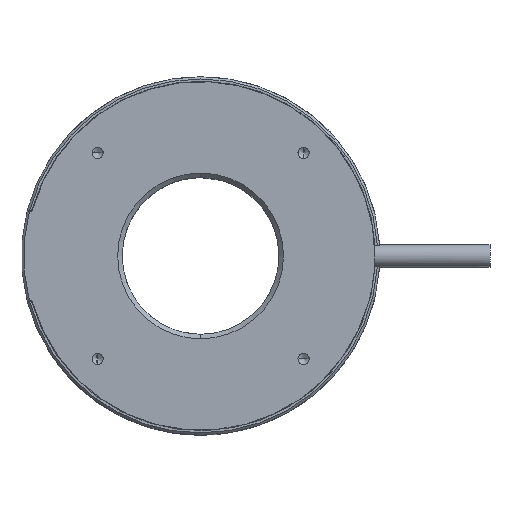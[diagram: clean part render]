
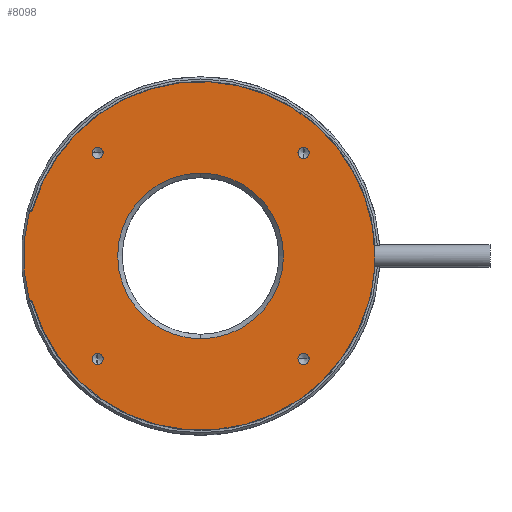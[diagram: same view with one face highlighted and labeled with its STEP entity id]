
A CAD part, top view. The second image highlights one B-rep face of the part: STEP entity #8098.
In plain terms, the highlighted planar face has unit normal (0, 0, 1).
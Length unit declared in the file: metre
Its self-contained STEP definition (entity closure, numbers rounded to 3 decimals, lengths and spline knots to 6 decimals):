
#1442=CARTESIAN_POINT('',(0.,0.,0.002));
#1443=DIRECTION('',(0.,0.,-1.));
#1444=DIRECTION('',(0.,1.,0.));
#1445=AXIS2_PLACEMENT_3D('',#1442,#1443,#1444);
#1447=CARTESIAN_POINT('',(0.,0.,0.002));
#1448=DIRECTION('',(0.,0.,-1.));
#1449=DIRECTION('',(0.,-1.,0.));
#1450=AXIS2_PLACEMENT_3D('',#1447,#1448,#1449);
#1452=CARTESIAN_POINT('',(0.022981,0.022981,0.002));
#1453=DIRECTION('',(0.,0.,-1.));
#1454=DIRECTION('',(0.,1.,0.));
#1455=AXIS2_PLACEMENT_3D('',#1452,#1453,#1454);
#1457=CARTESIAN_POINT('',(0.022981,0.022981,0.002));
#1458=DIRECTION('',(0.,0.,-1.));
#1459=DIRECTION('',(0.,-1.,0.));
#1460=AXIS2_PLACEMENT_3D('',#1457,#1458,#1459);
#1462=CARTESIAN_POINT('',(-0.022981,0.022981,0.002));
#1463=DIRECTION('',(0.,0.,-1.));
#1464=DIRECTION('',(-1.,0.,0.));
#1465=AXIS2_PLACEMENT_3D('',#1462,#1463,#1464);
#1467=CARTESIAN_POINT('',(-0.022981,0.022981,0.002));
#1468=DIRECTION('',(0.,0.,-1.));
#1469=DIRECTION('',(1.,0.,0.));
#1470=AXIS2_PLACEMENT_3D('',#1467,#1468,#1469);
#1472=CARTESIAN_POINT('',(-0.022981,-0.022981,0.002));
#1473=DIRECTION('',(0.,0.,-1.));
#1474=DIRECTION('',(0.,-1.,0.));
#1475=AXIS2_PLACEMENT_3D('',#1472,#1473,#1474);
#1477=CARTESIAN_POINT('',(-0.022981,-0.022981,0.002));
#1478=DIRECTION('',(0.,0.,-1.));
#1479=DIRECTION('',(0.,1.,0.));
#1480=AXIS2_PLACEMENT_3D('',#1477,#1478,#1479);
#1482=CARTESIAN_POINT('',(0.022981,-0.022981,0.002));
#1483=DIRECTION('',(0.,0.,-1.));
#1484=DIRECTION('',(1.,0.,0.));
#1485=AXIS2_PLACEMENT_3D('',#1482,#1483,#1484);
#1487=CARTESIAN_POINT('',(0.022981,-0.022981,0.002));
#1488=DIRECTION('',(0.,0.,-1.));
#1489=DIRECTION('',(-1.,0.,0.));
#1490=AXIS2_PLACEMENT_3D('',#1487,#1488,#1489);
#1492=CARTESIAN_POINT('',(-0.037975,0.0105,0.002));
#1493=DIRECTION('',(0.,0.,-1.));
#1494=DIRECTION('',(0.964,-0.266,0.));
#1495=AXIS2_PLACEMENT_3D('',#1492,#1493,#1494);
#1497=CARTESIAN_POINT('',(0.,0.,0.002));
#1498=DIRECTION('',(0.,0.,1.));
#1499=DIRECTION('',(1.,0.,0.));
#1500=AXIS2_PLACEMENT_3D('',#1497,#1498,#1499);
#1502=CARTESIAN_POINT('',(0.,0.,0.002));
#1503=DIRECTION('',(0.,0.,1.));
#1504=DIRECTION('',(0.964,-0.266,0.));
#1505=AXIS2_PLACEMENT_3D('',#1502,#1503,#1504);
#1507=CARTESIAN_POINT('',(0.,0.,0.002));
#1508=DIRECTION('',(0.,0.,1.));
#1509=DIRECTION('',(-0.964,-0.266,0.));
#1510=AXIS2_PLACEMENT_3D('',#1507,#1508,#1509);
#1512=CARTESIAN_POINT('',(-0.037975,-0.0105,0.002));
#1513=DIRECTION('',(0.,0.,-1.));
#1514=DIRECTION('',(0.,1.,0.));
#1515=AXIS2_PLACEMENT_3D('',#1512,#1513,#1514);
#1517=CARTESIAN_POINT('',(0.,0.,0.002));
#1518=DIRECTION('',(0.,0.,1.));
#1519=DIRECTION('',(-0.967,0.253,0.));
#1520=AXIS2_PLACEMENT_3D('',#1517,#1518,#1519);
#1634=DIRECTION('',(1.,0.,0.));
#1635=VECTOR('',#1634,0.000238);
#1636=CARTESIAN_POINT('',(-0.038213,0.01,0.002));
#1637=LINE('',#1636,#1635);
#4492=DIRECTION('',(-1.,0.,0.));
#4493=VECTOR('',#4492,0.000238);
#4494=CARTESIAN_POINT('',(-0.037975,-0.01,0.002));
#4495=LINE('',#4494,#4493);
#4868=CARTESIAN_POINT('',(-0.037493,-0.010367,0.002));
#4869=CARTESIAN_POINT('',(0.037493,-0.010367,0.002));
#4870=VERTEX_POINT('',#4868);
#4871=VERTEX_POINT('',#4869);
#4872=CARTESIAN_POINT('',(0.0389,0.,0.002));
#4873=VERTEX_POINT('',#4872);
#4874=CARTESIAN_POINT('',(-0.037493,0.010367,0.002));
#4875=VERTEX_POINT('',#4874);
#4876=CARTESIAN_POINT('',(-0.037975,-0.01,0.002));
#4877=VERTEX_POINT('',#4876);
#4878=CARTESIAN_POINT('',(-0.038213,-0.01,0.002));
#4879=VERTEX_POINT('',#4878);
#4880=CARTESIAN_POINT('',(-0.038213,0.01,0.002));
#4881=VERTEX_POINT('',#4880);
#4882=CARTESIAN_POINT('',(-0.037975,0.01,0.002));
#4883=VERTEX_POINT('',#4882);
#4884=CARTESIAN_POINT('',(0.021731,-0.022981,0.002));
#4885=CARTESIAN_POINT('',(0.024231,-0.022981,0.002));
#4886=VERTEX_POINT('',#4884);
#4887=VERTEX_POINT('',#4885);
#4888=CARTESIAN_POINT('',(-0.022981,-0.021731,0.002));
#4889=CARTESIAN_POINT('',(-0.022981,-0.024231,0.002));
#4890=VERTEX_POINT('',#4888);
#4891=VERTEX_POINT('',#4889);
#4892=CARTESIAN_POINT('',(-0.021731,0.022981,0.002));
#4893=CARTESIAN_POINT('',(-0.024231,0.022981,0.002));
#4894=VERTEX_POINT('',#4892);
#4895=VERTEX_POINT('',#4893);
#4896=CARTESIAN_POINT('',(0.022981,0.021731,0.002));
#4897=CARTESIAN_POINT('',(0.022981,0.024231,0.002));
#4898=VERTEX_POINT('',#4896);
#4899=VERTEX_POINT('',#4897);
#4900=CARTESIAN_POINT('',(0.,-0.0185,0.002));
#4901=CARTESIAN_POINT('',(0.,0.0185,0.002));
#4902=VERTEX_POINT('',#4900);
#4903=VERTEX_POINT('',#4901);
#8047=CARTESIAN_POINT('',(0.,0.,0.002));
#8048=DIRECTION('',(0.,0.,-1.));
#8049=DIRECTION('',(0.,1.,0.));
#8050=AXIS2_PLACEMENT_3D('',#8047,#8048,#8049);
#8051=PLANE('',#8050);
#8053=ORIENTED_EDGE('',*,*,#8052,.F.);
#8055=ORIENTED_EDGE('',*,*,#8054,.F.);
#8057=ORIENTED_EDGE('',*,*,#8056,.F.);
#8059=ORIENTED_EDGE('',*,*,#8058,.F.);
#8061=ORIENTED_EDGE('',*,*,#8060,.F.);
#8063=ORIENTED_EDGE('',*,*,#8062,.T.);
#8065=ORIENTED_EDGE('',*,*,#8064,.F.);
#8067=ORIENTED_EDGE('',*,*,#8066,.T.);
#8068=EDGE_LOOP('',(#8053,#8055,#8057,#8059,#8061,#8063,#8065,#8067));
#8069=FACE_OUTER_BOUND('',#8068,.F.);
#8071=ORIENTED_EDGE('',*,*,#8070,.F.);
#8073=ORIENTED_EDGE('',*,*,#8072,.F.);
#8074=EDGE_LOOP('',(#8071,#8073));
#8075=FACE_BOUND('',#8074,.F.);
#8077=ORIENTED_EDGE('',*,*,#8076,.F.);
#8079=ORIENTED_EDGE('',*,*,#8078,.F.);
#8080=EDGE_LOOP('',(#8077,#8079));
#8081=FACE_BOUND('',#8080,.F.);
#8083=ORIENTED_EDGE('',*,*,#8082,.F.);
#8085=ORIENTED_EDGE('',*,*,#8084,.F.);
#8086=EDGE_LOOP('',(#8083,#8085));
#8087=FACE_BOUND('',#8086,.F.);
#8089=ORIENTED_EDGE('',*,*,#8088,.F.);
#8091=ORIENTED_EDGE('',*,*,#8090,.F.);
#8092=EDGE_LOOP('',(#8089,#8091));
#8093=FACE_BOUND('',#8092,.F.);
#8094=ORIENTED_EDGE('',*,*,#8040,.F.);
#8095=ORIENTED_EDGE('',*,*,#8026,.F.);
#8096=EDGE_LOOP('',(#8094,#8095));
#8097=FACE_BOUND('',#8096,.F.);
#8098=ADVANCED_FACE('',(#8069,#8075,#8081,#8087,#8093,#8097),#8051,.F.);
#1446=CIRCLE('',#1445,0.0185);
#1451=CIRCLE('',#1450,0.0185);
#1456=CIRCLE('',#1455,0.00125);
#1461=CIRCLE('',#1460,0.00125);
#1466=CIRCLE('',#1465,0.00125);
#1471=CIRCLE('',#1470,0.00125);
#1476=CIRCLE('',#1475,0.00125);
#1481=CIRCLE('',#1480,0.00125);
#1486=CIRCLE('',#1485,0.00125);
#1491=CIRCLE('',#1490,0.00125);
#1496=CIRCLE('',#1495,0.0005);
#1501=CIRCLE('',#1500,0.0389);
#1506=CIRCLE('',#1505,0.0389);
#1511=CIRCLE('',#1510,0.0389);
#1516=CIRCLE('',#1515,0.0005);
#1521=CIRCLE('',#1520,0.0395);
#8026=EDGE_CURVE('',#4902,#4903,#1451,.T.);
#8040=EDGE_CURVE('',#4903,#4902,#1446,.T.);
#8052=EDGE_CURVE('',#4875,#4883,#1496,.T.);
#8054=EDGE_CURVE('',#4873,#4875,#1501,.T.);
#8056=EDGE_CURVE('',#4871,#4873,#1506,.T.);
#8058=EDGE_CURVE('',#4870,#4871,#1511,.T.);
#8060=EDGE_CURVE('',#4877,#4870,#1516,.T.);
#8062=EDGE_CURVE('',#4877,#4879,#4495,.T.);
#8064=EDGE_CURVE('',#4881,#4879,#1521,.T.);
#8066=EDGE_CURVE('',#4881,#4883,#1637,.T.);
#8070=EDGE_CURVE('',#4899,#4898,#1456,.T.);
#8072=EDGE_CURVE('',#4898,#4899,#1461,.T.);
#8076=EDGE_CURVE('',#4895,#4894,#1466,.T.);
#8078=EDGE_CURVE('',#4894,#4895,#1471,.T.);
#8082=EDGE_CURVE('',#4891,#4890,#1476,.T.);
#8084=EDGE_CURVE('',#4890,#4891,#1481,.T.);
#8088=EDGE_CURVE('',#4887,#4886,#1486,.T.);
#8090=EDGE_CURVE('',#4886,#4887,#1491,.T.);
